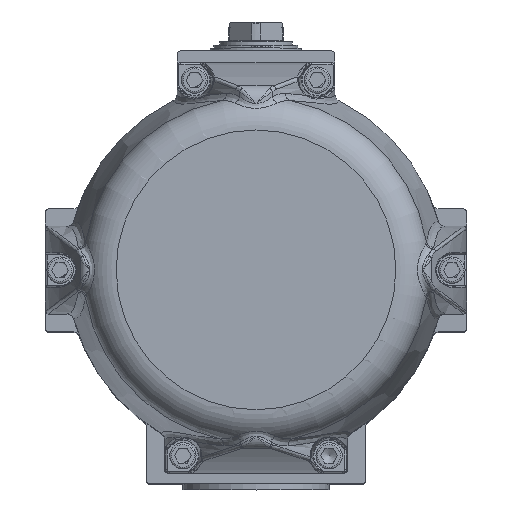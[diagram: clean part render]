
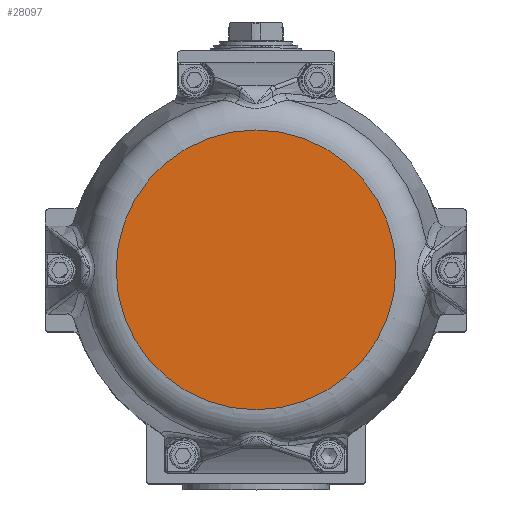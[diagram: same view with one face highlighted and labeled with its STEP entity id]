
A CAD part, top view. The second image highlights one B-rep face of the part: STEP entity #28097.
In plain terms, the highlighted planar face has unit normal (0, 0, 1).
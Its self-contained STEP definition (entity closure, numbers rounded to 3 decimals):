
#851=PLANE('',#30806);
#2744=FACE_OUTER_BOUND('',#4394,.T.);
#4394=EDGE_LOOP('',(#23479));
#9490=CIRCLE('',#30622,95.678);
#11824=VERTEX_POINT('',#63823);
#15621=EDGE_CURVE('',#11824,#11824,#9490,.T.);
#23479=ORIENTED_EDGE('',*,*,#15621,.F.);
#28097=ADVANCED_FACE('',(#2744),#851,.T.);
#30622=AXIS2_PLACEMENT_3D('',#63825,#36548,#36549);
#30806=AXIS2_PLACEMENT_3D('',#67023,#36985,#36986);
#36548=DIRECTION('center_axis',(0.,0.,
-1.));
#36549=DIRECTION('ref_axis',(-1.,0.,0.));
#36985=DIRECTION('center_axis',(0.,0.,
1.));
#36986=DIRECTION('ref_axis',(0.,-1.,0.));
#63823=CARTESIAN_POINT('',(0.,-95.678,284.1));
#63825=CARTESIAN_POINT('Origin',(0.,0.,
284.1));
#67023=CARTESIAN_POINT('Origin',(-47.839,0.,
284.1));
